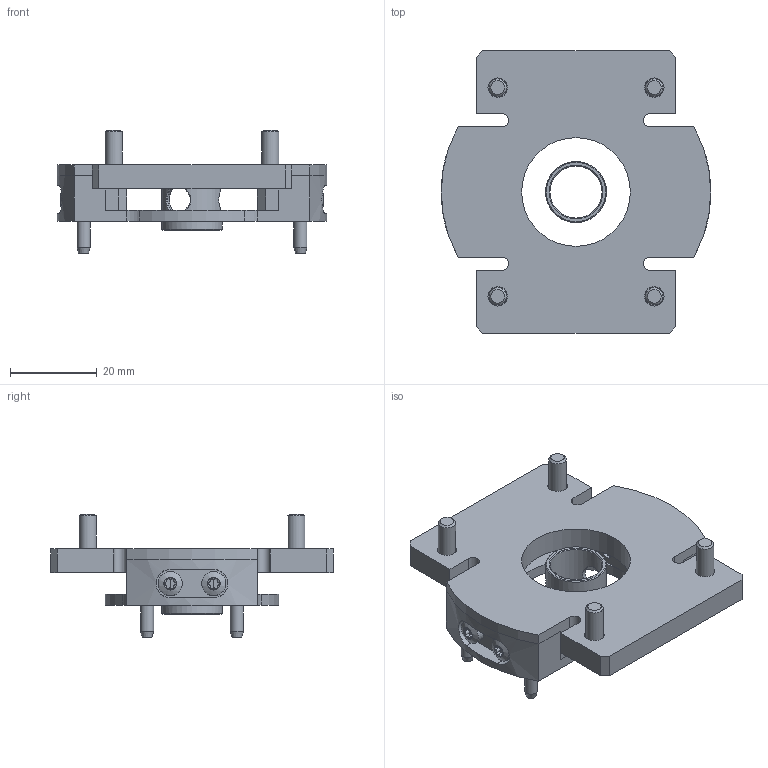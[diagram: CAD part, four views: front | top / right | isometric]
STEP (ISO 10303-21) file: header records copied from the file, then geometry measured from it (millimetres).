
FILE_DESCRIPTION(/* description */ (''),/* implementation_level */ '2;1');
FILE_NAME(/* name */ 'C:\ProgramData\PROCAD GmbH & Co. KG\NdfWork\339573_NdfWork\D00293030.step',/* time_stamp */ '2021-03-05T09:02:10+01:00',/* author */ ('fberger'),/* organization */ (''),/* preprocessor_version */ 'ST-DEVELOPER v18.1',/* originating_system */ 'Autodesk Inventor 2020',/* authorisation */ '');
FILE_SCHEMA (('AUTOMOTIVE_DESIGN { 1 0 10303 214 3 1 1 }'));
Length unit declared in the file: millimetre
Products named in the file (7): D00293030.iam; D00291212.ipt; D00291215.ipt; D00136826.ipt; D00187700.ipt; D00128762.ipt; D00292872.ipt
Assembly tree (15 placements, depth 2):
  D00293030.iam
    D00291212.ipt
    D00291215.ipt
    D00136826.ipt
    D00187700.ipt  x4
    D00128762.ipt  x4
    D00292872.ipt  x4
Bounding box: 62 x 65 x 28.5 mm (x, y, z)
Volume: 22563.1 mm3; surface area: 17929.4 mm2
Topology: 15 solids, 15 shells, 410 faces, 1105 edges, 749 vertices
Faces by surface type: cylinder 173, plane 118, bspline 51, cone 32, torus 32, sphere 4
Full cylindrical faces by diameter (mm): 2.459 x4, 2.828 x4, 3 x8, 3.3 x8, 4 x4, 4.5 x4, 5.3 x4, 5.6 x4, 6 x7, 7 x4, 8 x4, 12 x1, 14 x1, 25 x1, 30 x1
Entity records: 8082 total; most frequent: CARTESIAN_POINT 2870, ORIENTED_EDGE 1030, DIRECTION 1020, EDGE_CURVE 515, AXIS2_PLACEMENT_3D 398, VERTEX_POINT 354, EDGE_LOOP 247, LINE 224
